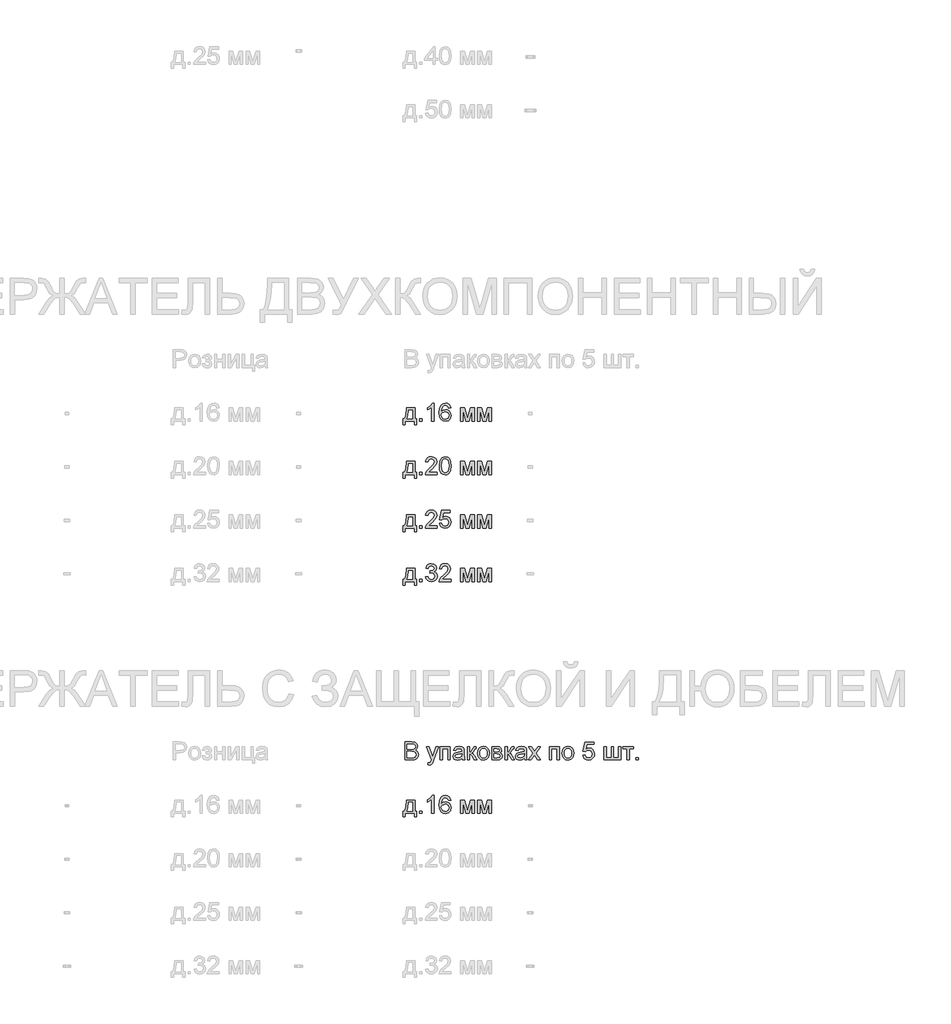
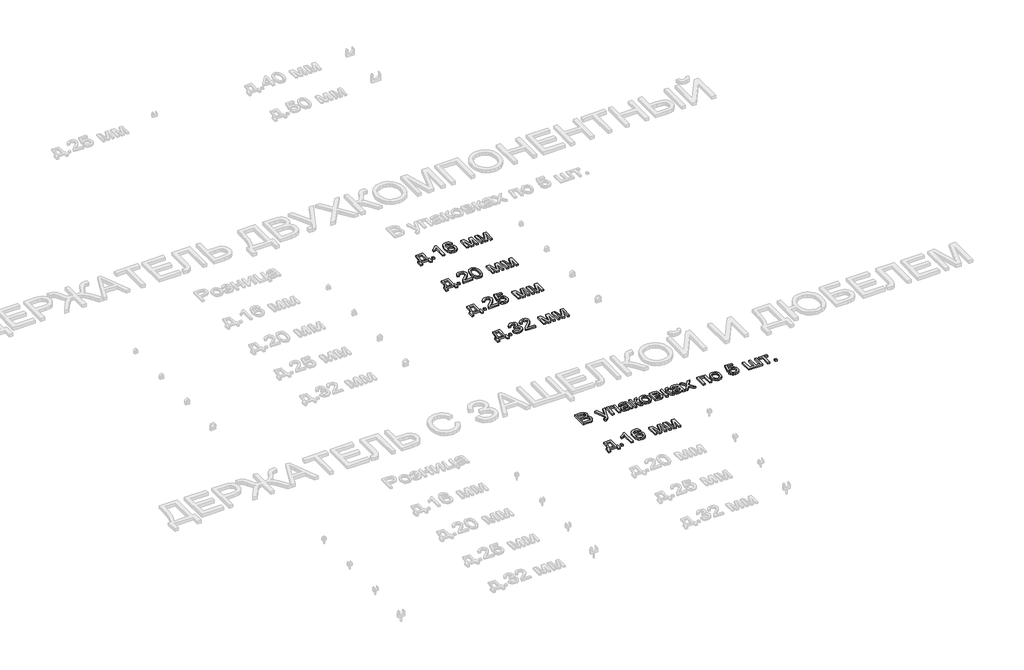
# One storey, part 43 of 98: 6 proxies.
"""IFC4 building model written with IfcOpenShell, lengths in millimetres."""

from ifc_helpers import new_model, si_unit, origin, origin_with_axes, place, context, project, spatial, polyline, outline, extrude, element, save

model = new_model("IFC4")

# Units and contexts
model_context = context("Model", 3, world=origin())
ifc_project = project(units=[si_unit("LENGTHUNIT", "METRE", prefix="MILLI")], contexts=[model_context])

# Site, building, storey
site = spatial("IfcSite", under=ifc_project)
building = spatial("IfcBuilding", under=site)
storey = spatial("IfcBuildingStorey", under=building, Name="Этаж 01", Elevation=0.0)

# Proxies
placement = place(None, origin())
element("IfcBuildingElementProxy", 1, Name="100", ObjectType="100", at=placement, inside=storey, context=model_context, shape_type="SweptSolid", body=[
    extrude(outline(polyline([(8374.7606918, -36585.7395637), (8421.8495872, -36585.7395637), (8421.8495872, -36646.9551277), (8431.2673663, -36646.9551277), (8431.2673663, -36679.9173545), (8418.7103275, -36679.9173545), (8418.7103275, -36659.5121665), (8366.9125426, -36659.5121665), (8366.9125426, -36679.9173545), (8354.3555038, -36679.9173545), (8354.3555038, -36646.9551277), (8362.2036531, -36646.9551277), (8371.903475, -36623.0060098), (8374.7606918, -36585.7395637)]), holes=[polyline([(8385.7481007, -36598.2966025), (8382.8050448, -36626.905559), (8376.3303217, -36646.9551277), (8409.2925484, -36646.9551277), (8409.2925484, -36598.2966025), (8385.7481007, -36598.2966025)])]), origin_with_axes(), (0.0, 0.0, 1.0), 10.0),
    extrude(outline(polyline([(8448.5332946, -36659.5121665), (8448.5332946, -36646.9551277), (8461.0903334, -36646.9551277), (8461.0903334, -36659.5121665), (8448.5332946, -36659.5121665)])), origin_with_axes(), (0.0, 0.0, 1.0), 10.0),
    extrude(outline(polyline([(8528.5844167, -36659.5121665), (8516.027378, -36659.5121665), (8516.027378, -36581.2268779), (8504.1325268, -36589.7004265), (8490.9133004, -36596.0402596), (8490.9133004, -36584.1699338), (8509.3196629, -36572.4222355), (8520.4910128, -36559.0558563), (8528.5844167, -36559.0558563), (8528.5844167, -36659.5121665)])), origin_with_axes(), (0.0, 0.0, 1.0), 10.0),
    extrude(outline(polyline([(8622.7622075, -36585.7395637), (8610.2051687, -36587.3091935), (8605.4472283, -36576.8368194), (8592.865664, -36571.6128951), (8581.5348986, -36574.6540529), (8572.9632481, -36586.0706575), (8569.3947927, -36608.4501455), (8580.4680408, -36598.4314925), (8594.1900392, -36595.1573428), (8605.7905848, -36597.3952916), (8615.5271949, -36604.109138), (8622.1306767, -36614.3669143), (8624.3318374, -36627.2366527), (8620.1870335, -36644.5638947), (8608.7826917, -36656.8266279), (8592.3261038, -36661.0817963), (8578.0798735, -36658.2613677), (8566.7337796, -36649.8000818), (8559.3117604, -36634.8640728), (8556.837754, -36612.6194748), (8559.5846062, -36587.6096305), (8567.8251629, -36570.5092491), (8579.0762206, -36561.9192045), (8593.650479, -36559.0558563), (8604.6685447, -36560.8278213), (8613.4915812, -36566.1437161), (8619.6719987, -36574.5866079), (8622.7622075, -36585.7395637)]), holes=[polyline([(8569.3947927, -36627.040449), (8572.3010605, -36637.9174933), (8580.0265824, -36645.8146935), (8591.3450851, -36648.5247575), (8599.6316271, -36647.1206746), (8606.1462041, -36642.9084257), (8610.36765, -36636.2865498), (8611.7747986, -36627.6535857), (8610.3860441, -36619.3670437), (8606.2197805, -36613.0486705), (8599.5948389, -36609.0479538), (8590.8300503, -36607.7143815), (8575.6365239, -36613.0486705), (8570.9552255, -36619.2137596), (8569.3947927, -36627.040449)])]), origin_with_axes(), (0.0, 0.0, 1.0), 10.0),
    extrude(outline(polyline([(8677.6992521, -36585.7395637), (8699.306188, -36585.7395637), (8715.9589796, -36644.7968867), (8733.911621, -36585.7395637), (8754.6111146, -36585.7395637), (8754.6111146, -36659.5121665), (8742.0540758, -36659.5121665), (8742.0540758, -36600.111487), (8724.0033326, -36659.5121665), (8707.5222192, -36659.5121665), (8690.2562909, -36597.2665329), (8690.2562909, -36659.5121665), (8677.6992521, -36659.5121665), (8677.6992521, -36585.7395637)])), origin_with_axes(), (0.0, 0.0, 1.0), 10.0),
    extrude(outline(polyline([(8773.4466727, -36585.7395637), (8795.0536086, -36585.7395637), (8811.7064002, -36644.7968867), (8829.6590416, -36585.7395637), (8850.3585352, -36585.7395637), (8850.3585352, -36659.5121665), (8837.8014964, -36659.5121665), (8837.8014964, -36600.111487), (8819.7507532, -36659.5121665), (8803.2696398, -36659.5121665), (8786.0037115, -36597.2665329), (8786.0037115, -36659.5121665), (8773.4466727, -36659.5121665), (8773.4466727, -36585.7395637)])), origin_with_axes(), (0.0, 0.0, 1.0), 10.0),
])
element("IfcBuildingElementProxy", 2, Name="100", ObjectType="100", at=placement, inside=storey, context=model_context, shape_type="SweptSolid", body=[
    extrude(outline(polyline([(8374.7606918, -36885.7395637), (8421.8495872, -36885.7395637), (8421.8495872, -36946.9551277), (8431.2673663, -36946.9551277), (8431.2673663, -36979.9173545), (8418.7103275, -36979.9173545), (8418.7103275, -36959.5121665), (8366.9125426, -36959.5121665), (8366.9125426, -36979.9173545), (8354.3555038, -36979.9173545), (8354.3555038, -36946.9551277), (8362.2036531, -36946.9551277), (8371.903475, -36923.0060098), (8374.7606918, -36885.7395637)]), holes=[polyline([(8385.7481007, -36898.2966025), (8382.8050448, -36926.905559), (8376.3303217, -36946.9551277), (8409.2925484, -36946.9551277), (8409.2925484, -36898.2966025), (8385.7481007, -36898.2966025)])]), origin_with_axes(), (0.0, 0.0, 1.0), 10.0),
    extrude(outline(polyline([(8448.5332946, -36959.5121665), (8448.5332946, -36946.9551277), (8461.0903334, -36946.9551277), (8461.0903334, -36959.5121665), (8448.5332946, -36959.5121665)])), origin_with_axes(), (0.0, 0.0, 1.0), 10.0),
    extrude(outline(polyline([(8545.850345, -36946.9551277), (8545.850345, -36959.5121665), (8479.9258915, -36959.5121665), (8481.2747922, -36950.8546768), (8488.9022122, -36937.5250859), (8504.6230361, -36922.9692216), (8526.3035484, -36902.0489988), (8531.7236764, -36887.8242283), (8526.6101167, -36876.3095219), (8513.2560003, -36871.6128951), (8499.3377981, -36876.1991573), (8494.0525601, -36888.8788234), (8481.4955214, -36887.3091935), (8484.5397449, -36875.1629563), (8491.1217669, -36866.2908689), (8500.8982309, -36860.8646095), (8513.5257804, -36859.0558563), (8526.2453004, -36861.0669445), (8536.0033703, -36867.1002093), (8542.211379, -36876.1133182), (8544.2807152, -36887.0639389), (8542.0488978, -36898.9710528), (8534.6299442, -36911.2828369), (8516.6405146, -36928.4874515), (8502.195015, -36940.5662437), (8496.5296322, -36946.9551277), (8545.850345, -36946.9551277)])), origin_with_axes(), (0.0, 0.0, 1.0), 10.0),
    extrude(outline(polyline([(8558.4073838, -36910.0933518), (8562.0984665, -36881.1900897), (8573.06135, -36864.5250353), (8591.3696106, -36859.0558563), (8606.0358395, -36862.2932179), (8616.1648571, -36871.6251578), (8622.050969, -36886.4875904), (8624.3318374, -36910.0933518), (8620.6775429, -36938.8739865), (8609.7514476, -36955.5758291), (8601.520088, -36959.7053045), (8591.3696106, -36961.0817963), (8578.3220625, -36958.6905633), (8568.4137741, -36951.5168644), (8560.9089814, -36934.5268476), (8558.4073838, -36910.0933518)]), holes=[polyline([(8570.9644226, -36910.0688263), (8572.4359506, -36929.8210238), (8576.8505345, -36941.2529568), (8583.4233595, -36946.7068073), (8591.3696106, -36948.5247575), (8599.3158617, -36946.700676), (8605.8886867, -36941.2284313), (8610.3032706, -36929.7903669), (8611.7747986, -36910.0688263), (8610.3523215, -36890.7611529), (8606.0848904, -36879.2403151), (8599.5243281, -36873.5197501), (8591.2224578, -36871.6128951), (8583.3620458, -36873.2928895), (8577.0467382, -36878.3328729), (8572.4850015, -36890.5710806), (8570.9644226, -36910.0688263)])]), origin_with_axes(), (0.0, 0.0, 1.0), 10.0),
    extrude(outline(polyline([(8677.6992521, -36885.7395637), (8699.306188, -36885.7395637), (8715.9589796, -36944.7968867), (8733.911621, -36885.7395637), (8754.6111146, -36885.7395637), (8754.6111146, -36959.5121665), (8742.0540758, -36959.5121665), (8742.0540758, -36900.111487), (8724.0033326, -36959.5121665), (8707.5222192, -36959.5121665), (8690.2562909, -36897.2665329), (8690.2562909, -36959.5121665), (8677.6992521, -36959.5121665), (8677.6992521, -36885.7395637)])), origin_with_axes(), (0.0, 0.0, 1.0), 10.0),
    extrude(outline(polyline([(8773.4466727, -36885.7395637), (8795.0536086, -36885.7395637), (8811.7064002, -36944.7968867), (8829.6590416, -36885.7395637), (8850.3585352, -36885.7395637), (8850.3585352, -36959.5121665), (8837.8014964, -36959.5121665), (8837.8014964, -36900.111487), (8819.7507532, -36959.5121665), (8803.2696398, -36959.5121665), (8786.0037115, -36897.2665329), (8786.0037115, -36959.5121665), (8773.4466727, -36959.5121665), (8773.4466727, -36885.7395637)])), origin_with_axes(), (0.0, 0.0, 1.0), 10.0),
])
element("IfcBuildingElementProxy", 3, Name="100", ObjectType="100", at=placement, inside=storey, context=model_context, shape_type="SweptSolid", body=[
    extrude(outline(polyline([(8374.7606918, -37185.7395637), (8421.8495872, -37185.7395637), (8421.8495872, -37246.9551277), (8431.2673663, -37246.9551277), (8431.2673663, -37279.9173545), (8418.7103275, -37279.9173545), (8418.7103275, -37259.5121665), (8366.9125426, -37259.5121665), (8366.9125426, -37279.9173545), (8354.3555038, -37279.9173545), (8354.3555038, -37246.9551277), (8362.2036531, -37246.9551277), (8371.903475, -37223.0060098), (8374.7606918, -37185.7395637)]), holes=[polyline([(8385.7481007, -37198.2966025), (8382.8050448, -37226.905559), (8376.3303217, -37246.9551277), (8409.2925484, -37246.9551277), (8409.2925484, -37198.2966025), (8385.7481007, -37198.2966025)])]), origin_with_axes(), (0.0, 0.0, 1.0), 10.0),
    extrude(outline(polyline([(8448.5332946, -37259.5121665), (8448.5332946, -37246.9551277), (8461.0903334, -37246.9551277), (8461.0903334, -37259.5121665), (8448.5332946, -37259.5121665)])), origin_with_axes(), (0.0, 0.0, 1.0), 10.0),
    extrude(outline(polyline([(8545.850345, -37246.9551277), (8545.850345, -37259.5121665), (8479.9258915, -37259.5121665), (8481.2747922, -37250.8546768), (8488.9022122, -37237.5250859), (8504.6230361, -37222.9692216), (8526.3035484, -37202.0489988), (8531.7236764, -37187.8242283), (8526.6101167, -37176.3095219), (8513.2560003, -37171.6128951), (8499.3377981, -37176.1991573), (8494.0525601, -37188.8788234), (8481.4955214, -37187.3091935), (8484.5397449, -37175.1629563), (8491.1217669, -37166.2908689), (8500.8982309, -37160.8646095), (8513.5257804, -37159.0558563), (8526.2453004, -37161.0669445), (8536.0033703, -37167.1002093), (8542.211379, -37176.1133182), (8544.2807152, -37187.0639389), (8542.0488978, -37198.9710528), (8534.6299442, -37211.2828369), (8516.6405146, -37228.4874515), (8502.195015, -37240.5662437), (8496.5296322, -37246.9551277), (8545.850345, -37246.9551277)])), origin_with_axes(), (0.0, 0.0, 1.0), 10.0),
    extrude(outline(polyline([(8558.4073838, -37232.8284591), (8570.9644226, -37231.2588292), (8577.2919929, -37244.1960127), (8590.4131174, -37248.5247575), (8599.4139635, -37247.019507), (8606.1584668, -37242.5037555), (8610.3707156, -37235.4986692), (8611.7747986, -37226.5254142), (8606.5140861, -37211.6139307), (8599.9075386, -37207.5120464), (8590.6093211, -37206.1447517), (8579.585124, -37208.3275182), (8572.5340524, -37213.9929009), (8559.9770137, -37212.4232711), (8570.9644226, -37160.6254862), (8619.6229478, -37160.6254862), (8619.6229478, -37173.1825249), (8581.1179657, -37173.1825249), (8575.7468885, -37200.847251), (8584.7170778, -37195.4025974), (8594.1164628, -37193.5877129), (8605.8488328, -37195.8379245), (8615.5885086, -37202.5885591), (8622.1460052, -37212.8769922), (8624.3318374, -37225.7405993), (8622.3636687, -37238.2976381), (8616.4591627, -37249.0397923), (8605.1529227, -37258.0712953), (8590.3640665, -37261.0817963), (8578.0308226, -37259.1473501), (8568.2053076, -37253.3440117), (8561.4700014, -37244.3462312), (8558.4073838, -37232.8284591)])), origin_with_axes(), (0.0, 0.0, 1.0), 10.0),
    extrude(outline(polyline([(8677.6992521, -37185.7395637), (8699.306188, -37185.7395637), (8715.9589796, -37244.7968867), (8733.911621, -37185.7395637), (8754.6111146, -37185.7395637), (8754.6111146, -37259.5121665), (8742.0540758, -37259.5121665), (8742.0540758, -37200.111487), (8724.0033326, -37259.5121665), (8707.5222192, -37259.5121665), (8690.2562909, -37197.2665329), (8690.2562909, -37259.5121665), (8677.6992521, -37259.5121665), (8677.6992521, -37185.7395637)])), origin_with_axes(), (0.0, 0.0, 1.0), 10.0),
    extrude(outline(polyline([(8773.4466727, -37185.7395637), (8795.0536086, -37185.7395637), (8811.7064002, -37244.7968867), (8829.6590416, -37185.7395637), (8850.3585352, -37185.7395637), (8850.3585352, -37259.5121665), (8837.8014964, -37259.5121665), (8837.8014964, -37200.111487), (8819.7507532, -37259.5121665), (8803.2696398, -37259.5121665), (8786.0037115, -37197.2665329), (8786.0037115, -37259.5121665), (8773.4466727, -37259.5121665), (8773.4466727, -37185.7395637)])), origin_with_axes(), (0.0, 0.0, 1.0), 10.0),
])
element("IfcBuildingElementProxy", 4, Name="100", ObjectType="100", at=placement, inside=storey, context=model_context, shape_type="SweptSolid", body=[
    extrude(outline(polyline([(8374.7606918, -37485.7395637), (8421.8495872, -37485.7395637), (8421.8495872, -37546.9551277), (8431.2673663, -37546.9551277), (8431.2673663, -37579.9173545), (8418.7103275, -37579.9173545), (8418.7103275, -37559.5121665), (8366.9125426, -37559.5121665), (8366.9125426, -37579.9173545), (8354.3555038, -37579.9173545), (8354.3555038, -37546.9551277), (8362.2036531, -37546.9551277), (8371.903475, -37523.0060098), (8374.7606918, -37485.7395637)]), holes=[polyline([(8385.7481007, -37498.2966025), (8382.8050448, -37526.905559), (8376.3303217, -37546.9551277), (8409.2925484, -37546.9551277), (8409.2925484, -37498.2966025), (8385.7481007, -37498.2966025)])]), origin_with_axes(), (0.0, 0.0, 1.0), 10.0),
    extrude(outline(polyline([(8448.5332946, -37559.5121665), (8448.5332946, -37546.9551277), (8461.0903334, -37546.9551277), (8461.0903334, -37559.5121665), (8448.5332946, -37559.5121665)])), origin_with_axes(), (0.0, 0.0, 1.0), 10.0),
    extrude(outline(polyline([(8481.4955214, -37532.8284591), (8494.0525601, -37531.2588292), (8500.9810044, -37544.4780556), (8513.9427133, -37548.5247575), (8522.551152, -37547.1329373), (8529.1975534, -37542.9574767), (8534.8629361, -37529.1741646), (8529.2466043, -37516.1879302), (8514.9727829, -37511.049845), (8506.1681405, -37512.4232711), (8507.5660921, -37499.8662323), (8509.5771803, -37500.0133851), (8523.8264763, -37496.4081416), (8528.572154, -37491.8341421), (8530.1540466, -37485.3226308), (8525.5677844, -37475.5001815), (8513.7465096, -37471.6128951), (8501.778082, -37475.5369697), (8495.62219, -37487.3091935), (8483.0651512, -37485.7395637), (8486.7623653, -37474.4639805), (8493.3413216, -37466.0456142), (8502.3421678, -37460.8032958), (8513.3050512, -37459.0558563), (8528.4495267, -37462.5016843), (8539.0445281, -37471.9194634), (8542.7110854, -37484.5868668), (8539.2284691, -37496.1628869), (8528.9277733, -37504.47702), (8542.6129835, -37513.0609332), (8547.4199749, -37529.3948938), (8545.0164792, -37541.6331015), (8537.8059921, -37551.860221), (8526.9228164, -37558.7764025), (8513.5012549, -37561.0817963), (8501.3611491, -37559.1136276), (8491.4773862, -37553.2091216), (8484.6041242, -37544.1776186), (8481.4955214, -37532.8284591)])), origin_with_axes(), (0.0, 0.0, 1.0), 10.0),
    extrude(outline(polyline([(8622.7622075, -37546.9551277), (8622.7622075, -37559.5121665), (8556.837754, -37559.5121665), (8558.1866546, -37550.8546768), (8565.8140747, -37537.5250859), (8581.5348986, -37522.9692216), (8603.2154108, -37502.0489988), (8608.6355389, -37487.8242283), (8603.5219792, -37476.3095219), (8590.1678627, -37471.6128951), (8576.2496606, -37476.1991573), (8570.9644226, -37488.8788234), (8558.4073838, -37487.3091935), (8561.4516073, -37475.1629563), (8568.0336294, -37466.2908689), (8577.8100934, -37460.8646095), (8590.4376429, -37459.0558563), (8603.1571628, -37461.0669445), (8612.9152328, -37467.1002093), (8619.1232414, -37476.1133182), (8621.1925777, -37487.0639389), (8618.9607602, -37498.9710528), (8611.5418067, -37511.2828369), (8593.5523771, -37528.4874515), (8579.1068774, -37540.5662437), (8573.4414947, -37546.9551277), (8622.7622075, -37546.9551277)])), origin_with_axes(), (0.0, 0.0, 1.0), 10.0),
    extrude(outline(polyline([(8677.6992521, -37485.7395637), (8699.306188, -37485.7395637), (8715.9589796, -37544.7968867), (8733.911621, -37485.7395637), (8754.6111146, -37485.7395637), (8754.6111146, -37559.5121665), (8742.0540758, -37559.5121665), (8742.0540758, -37500.111487), (8724.0033326, -37559.5121665), (8707.5222192, -37559.5121665), (8690.2562909, -37497.2665329), (8690.2562909, -37559.5121665), (8677.6992521, -37559.5121665), (8677.6992521, -37485.7395637)])), origin_with_axes(), (0.0, 0.0, 1.0), 10.0),
    extrude(outline(polyline([(8773.4466727, -37485.7395637), (8795.0536086, -37485.7395637), (8811.7064002, -37544.7968867), (8829.6590416, -37485.7395637), (8850.3585352, -37485.7395637), (8850.3585352, -37559.5121665), (8837.8014964, -37559.5121665), (8837.8014964, -37500.111487), (8819.7507532, -37559.5121665), (8803.2696398, -37559.5121665), (8786.0037115, -37497.2665329), (8786.0037115, -37559.5121665), (8773.4466727, -37559.5121665), (8773.4466727, -37485.7395637)])), origin_with_axes(), (0.0, 0.0, 1.0), 10.0),
])
element("IfcBuildingElementProxy", 5, Name="100", ObjectType="100", at=placement, inside=storey, context=model_context, shape_type="SweptSolid", body=[
    extrude(outline(polyline([(8374.7606918, -38785.7395637), (8421.8495872, -38785.7395637), (8421.8495872, -38846.9551277), (8431.2673663, -38846.9551277), (8431.2673663, -38879.9173545), (8418.7103275, -38879.9173545), (8418.7103275, -38859.5121665), (8366.9125426, -38859.5121665), (8366.9125426, -38879.9173545), (8354.3555038, -38879.9173545), (8354.3555038, -38846.9551277), (8362.2036531, -38846.9551277), (8371.903475, -38823.0060098), (8374.7606918, -38785.7395637)]), holes=[polyline([(8385.7481007, -38798.2966025), (8382.8050448, -38826.905559), (8376.3303217, -38846.9551277), (8409.2925484, -38846.9551277), (8409.2925484, -38798.2966025), (8385.7481007, -38798.2966025)])]), origin_with_axes(), (0.0, 0.0, 1.0), 10.0),
    extrude(outline(polyline([(8448.5332946, -38859.5121665), (8448.5332946, -38846.9551277), (8461.0903334, -38846.9551277), (8461.0903334, -38859.5121665), (8448.5332946, -38859.5121665)])), origin_with_axes(), (0.0, 0.0, 1.0), 10.0),
    extrude(outline(polyline([(8528.5844167, -38859.5121665), (8516.027378, -38859.5121665), (8516.027378, -38781.2268779), (8504.1325268, -38789.7004265), (8490.9133004, -38796.0402596), (8490.9133004, -38784.1699338), (8509.3196629, -38772.4222355), (8520.4910128, -38759.0558563), (8528.5844167, -38759.0558563), (8528.5844167, -38859.5121665)])), origin_with_axes(), (0.0, 0.0, 1.0), 10.0),
    extrude(outline(polyline([(8622.7622075, -38785.7395637), (8610.2051687, -38787.3091935), (8605.4472283, -38776.8368194), (8592.865664, -38771.6128951), (8581.5348986, -38774.6540529), (8572.9632481, -38786.0706575), (8569.3947927, -38808.4501455), (8580.4680408, -38798.4314925), (8594.1900392, -38795.1573428), (8605.7905848, -38797.3952916), (8615.5271949, -38804.109138), (8622.1306767, -38814.3669143), (8624.3318374, -38827.2366527), (8620.1870335, -38844.5638947), (8608.7826917, -38856.8266279), (8592.3261038, -38861.0817963), (8578.0798735, -38858.2613677), (8566.7337796, -38849.8000818), (8559.3117604, -38834.8640728), (8556.837754, -38812.6194748), (8559.5846062, -38787.6096305), (8567.8251629, -38770.5092491), (8579.0762206, -38761.9192045), (8593.650479, -38759.0558563), (8604.6685447, -38760.8278213), (8613.4915812, -38766.1437161), (8619.6719987, -38774.5866079), (8622.7622075, -38785.7395637)]), holes=[polyline([(8569.3947927, -38827.040449), (8572.3010605, -38837.9174933), (8580.0265824, -38845.8146935), (8591.3450851, -38848.5247575), (8599.6316271, -38847.1206746), (8606.1462041, -38842.9084257), (8610.36765, -38836.2865498), (8611.7747986, -38827.6535857), (8610.3860441, -38819.3670437), (8606.2197805, -38813.0486705), (8599.5948389, -38809.0479538), (8590.8300503, -38807.7143815), (8575.6365239, -38813.0486705), (8570.9552255, -38819.2137596), (8569.3947927, -38827.040449)])]), origin_with_axes(), (0.0, 0.0, 1.0), 10.0),
    extrude(outline(polyline([(8677.6992521, -38785.7395637), (8699.306188, -38785.7395637), (8715.9589796, -38844.7968867), (8733.911621, -38785.7395637), (8754.6111146, -38785.7395637), (8754.6111146, -38859.5121665), (8742.0540758, -38859.5121665), (8742.0540758, -38800.111487), (8724.0033326, -38859.5121665), (8707.5222192, -38859.5121665), (8690.2562909, -38797.2665329), (8690.2562909, -38859.5121665), (8677.6992521, -38859.5121665), (8677.6992521, -38785.7395637)])), origin_with_axes(), (0.0, 0.0, 1.0), 10.0),
    extrude(outline(polyline([(8773.4466727, -38785.7395637), (8795.0536086, -38785.7395637), (8811.7064002, -38844.7968867), (8829.6590416, -38785.7395637), (8850.3585352, -38785.7395637), (8850.3585352, -38859.5121665), (8837.8014964, -38859.5121665), (8837.8014964, -38800.111487), (8819.7507532, -38859.5121665), (8803.2696398, -38859.5121665), (8786.0037115, -38797.2665329), (8786.0037115, -38859.5121665), (8773.4466727, -38859.5121665), (8773.4466727, -38785.7395637)])), origin_with_axes(), (0.0, 0.0, 1.0), 10.0),
])
element("IfcBuildingElementProxy", 6, Name="100", ObjectType="100", at=placement, inside=storey, context=model_context, shape_type="SweptSolid", body=[
    extrude(outline(polyline([(8365.3429127, -38559.5121665), (8365.3429127, -38459.0558563), (8403.6762166, -38459.0558563), (8422.4504611, -38462.011175), (8433.5359719, -38471.0978603), (8437.5458857, -38483.9492046), (8434.173634, -38495.6846403), (8423.9833028, -38504.5751218), (8436.3564006, -38513.94385), (8440.6851454, -38529.5665721), (8437.7298267, -38543.0678413), (8430.408975, -38552.6818241), (8419.4828797, -38557.7831211), (8403.3819111, -38559.5121665), (8365.3429127, -38559.5121665)]), holes=[polyline([(8377.8999515, -38499.8662323), (8400.8312626, -38499.8662323), (8414.2221672, -38498.7871118), (8422.2787829, -38494.1395359), (8424.9888469, -38485.9602929), (8422.4627239, -38477.7687871), (8415.2277113, -38472.9250075), (8399.0899544, -38471.6128951), (8377.8999515, -38471.6128951), (8377.8999515, -38499.8662323)]), polyline([(8377.8999515, -38546.9551277), (8403.6516912, -38546.9551277), (8412.9713684, -38546.4646184), (8420.8563058, -38543.7300289), (8426.0802302, -38538.1504853), (8428.1281066, -38529.6891994), (8425.7246109, -38519.9280638), (8417.9377753, -38514.1032655), (8402.4254179, -38512.4232711), (8377.8999515, -38512.4232711), (8377.8999515, -38546.9551277)])]), origin_with_axes(), (0.0, 0.0, 1.0), 10.0),
    extrude(outline(polyline([(8495.62219, -38587.7655037), (8494.0525601, -38575.6744488), (8500.4291814, -38576.7780948), (8506.3888697, -38575.3924059), (8510.0431642, -38571.529645), (8513.4767295, -38562.2835442), (8514.4577481, -38559.2423863), (8487.7740407, -38485.7395637), (8501.0177926, -38485.7395637), (8515.1689867, -38526.6970925), (8520.0986054, -38543.080104), (8525.0282241, -38528.6100789), (8539.5718257, -38485.7395637), (8552.7174756, -38485.7395637), (8527.0393124, -38561.278), (8520.3683855, -38577.6610116), (8513.084322, -38586.5147049), (8503.2986609, -38589.3351335), (8495.62219, -38587.7655037)])), origin_with_axes(), (0.0, 0.0, 1.0), 10.0),
    extrude(outline(polyline([(8563.1162734, -38485.7395637), (8619.6229478, -38485.7395637), (8619.6229478, -38559.5121665), (8607.065909, -38559.5121665), (8607.065909, -38498.2966025), (8575.6733121, -38498.2966025), (8575.6733121, -38559.5121665), (8563.1162734, -38559.5121665), (8563.1162734, -38485.7395637)])), origin_with_axes(), (0.0, 0.0, 1.0), 10.0),
    extrude(outline(polyline([(8685.5474014, -38550.0943874), (8673.3705073, -38558.6047242), (8659.918289, -38561.0817963), (8649.4244551, -38559.5918742), (8641.6836048, -38555.122108), (8636.9103359, -38548.3346852), (8635.3192463, -38539.8917934), (8637.722742, -38529.9589795), (8644.0380496, -38522.7484924), (8652.8304292, -38518.6282141), (8663.6952108, -38516.7397532), (8685.473825, -38512.4232711), (8685.5474014, -38509.6273679), (8682.0893106, -38500.3567416), (8668.2078966, -38496.7269726), (8655.5037051, -38499.1427311), (8649.4459149, -38507.7143815), (8636.8888761, -38506.1447517), (8642.3212669, -38493.8820185), (8653.2596249, -38486.6960569), (8669.8265774, -38484.1699338), (8685.0446293, -38486.4017513), (8693.6408052, -38492.0058203), (8697.4913035, -38500.5284199), (8698.1044401, -38511.5158288), (8698.1044401, -38527.1385509), (8698.7421022, -38548.9539532), (8701.2436998, -38559.5121665), (8688.686661, -38559.5121665), (8685.5474014, -38550.0943874)]), holes=[polyline([(8685.5474014, -38524.9803098), (8665.2893661, -38528.8308081), (8654.4858982, -38530.8664218), (8649.5930677, -38534.1773597), (8647.876285, -38539.0088766), (8651.6164187, -38545.8024308), (8662.5915649, -38548.5247575), (8675.2957564, -38545.5203879), (8683.4872622, -38538.2485871), (8685.473825, -38528.5365025), (8685.5474014, -38524.9803098)])]), origin_with_axes(), (0.0, 0.0, 1.0), 10.0),
    extrude(outline(polyline([(8715.3703684, -38485.7395637), (8727.9274072, -38485.7395637), (8727.9274072, -38517.1321606), (8736.3396422, -38514.8758177), (8743.2312982, -38501.7301677), (8748.9579946, -38490.3871396), (8754.0102407, -38486.6960569), (8763.1950278, -38485.7395637), (8765.5985235, -38485.7395637), (8765.5985235, -38498.3701789), (8762.2140091, -38498.2966025), (8756.0826426, -38499.6209776), (8751.7661605, -38507.8860598), (8746.7016517, -38516.8255923), (8739.6015292, -38521.203388), (8747.5232548, -38526.0900872), (8755.2978276, -38536.3846517), (8768.7377832, -38559.5121665), (8754.4639618, -38559.5121665), (8741.2937864, -38536.875161), (8734.6719104, -38527.2979664), (8727.9274072, -38524.9803098), (8727.9274072, -38559.5121665), (8715.3703684, -38559.5121665), (8715.3703684, -38485.7395637)])), origin_with_axes(), (0.0, 0.0, 1.0), 10.0),
    extrude(outline(polyline([(8773.4466727, -38522.6258651), (8776.1628681, -38504.8387706), (8784.3114543, -38492.3369141), (8794.3791583, -38486.2116789), (8806.433425, -38484.1699338), (8819.6250602, -38486.656203), (8830.1618137, -38494.1150104), (8837.0687981, -38505.957745), (8839.3711263, -38521.5957955), (8835.2998989, -38543.9384953), (8823.4418359, -38556.5813732), (8806.433425, -38561.0817963), (8793.0823742, -38558.6047242), (8782.5578835, -38551.1735079), (8775.7244754, -38539.082453), (8773.4466727, -38522.6258651)]), holes=[polyline([(8786.0037115, -38522.6013396), (8787.4568454, -38533.9658276), (8791.816247, -38542.0622972), (8798.3768093, -38546.9091424), (8806.433425, -38548.5247575), (8814.4532525, -38546.8999454), (8821.001552, -38542.025509), (8825.3609536, -38533.8217405), (8826.8140875, -38522.2089321), (8825.3517566, -38511.175538), (8820.9647638, -38503.189433), (8814.4072672, -38498.3425877), (8806.433425, -38496.7269726), (8798.3768093, -38498.3364563), (8791.816247, -38503.1649075), (8787.4568454, -38511.242983), (8786.0037115, -38522.6013396)])]), origin_with_axes(), (0.0, 0.0, 1.0), 10.0),
    extrude(outline(polyline([(8853.4977949, -38485.7395637), (8881.1625209, -38485.7395637), (8896.3315219, -38487.4195581), (8904.8663841, -38493.5754502), (8908.4348395, -38504.3053417), (8906.2765985, -38513.024145), (8899.7773499, -38519.2413507), (8908.2141103, -38526.0471676), (8911.5740992, -38537.8807051), (8909.446515, -38547.4517684), (8904.3881375, -38554.1901403), (8896.3805728, -38558.1816599), (8885.4054266, -38559.5121665), (8853.4977949, -38559.5121665), (8853.4977949, -38485.7395637)]), holes=[polyline([(8866.0548337, -38513.9929009), (8878.4647196, -38513.9929009), (8888.7041018, -38513.3552388), (8893.6827715, -38510.8045903), (8895.8778007, -38506.1938026), (8892.0273025, -38500.0379106), (8878.8571271, -38498.2966025), (8866.0548337, -38498.2966025), (8866.0548337, -38513.9929009)]), polyline([(8866.0548337, -38546.9551277), (8881.4568265, -38546.9551277), (8895.1175113, -38544.6865221), (8899.0170604, -38536.8506356), (8896.8710821, -38530.8051081), (8891.2792758, -38527.2857037), (8880.2305532, -38526.5499397), (8866.0548337, -38526.5499397), (8866.0548337, -38546.9551277)])]), origin_with_axes(), (0.0, 0.0, 1.0), 10.0),
    extrude(outline(polyline([(8927.2703976, -38485.7395637), (8939.8274364, -38485.7395637), (8939.8274364, -38517.1321606), (8948.2396714, -38514.8758177), (8955.1313274, -38501.7301677), (8960.8580238, -38490.3871396), (8965.9102699, -38486.6960569), (8975.095057, -38485.7395637), (8977.4985527, -38485.7395637), (8977.4985527, -38498.3701789), (8974.1140384, -38498.2966025), (8967.9826718, -38499.6209776), (8963.6661897, -38507.8860598), (8958.6016809, -38516.8255923), (8951.5015584, -38521.203388), (8959.423284, -38526.0900872), (8967.1978569, -38536.3846517), (8980.6378124, -38559.5121665), (8966.363991, -38559.5121665), (8953.1938156, -38536.875161), (8946.5719397, -38527.2979664), (8939.8274364, -38524.9803098), (8939.8274364, -38559.5121665), (8927.2703976, -38559.5121665), (8927.2703976, -38485.7395637)])), origin_with_axes(), (0.0, 0.0, 1.0), 10.0),
    extrude(outline(polyline([(9035.574857, -38550.0943874), (9023.397963, -38558.6047242), (9009.9457447, -38561.0817963), (8999.4519108, -38559.5918742), (8991.7110605, -38555.122108), (8986.9377916, -38548.3346852), (8985.346702, -38539.8917934), (8987.7501977, -38529.9589795), (8994.0655052, -38522.7484924), (9002.8578849, -38518.6282141), (9013.7226665, -38516.7397532), (9035.5012806, -38512.4232711), (9035.574857, -38509.6273679), (9032.1167663, -38500.3567416), (9018.2353523, -38496.7269726), (9005.5311608, -38499.1427311), (8999.4733706, -38507.7143815), (8986.9163318, -38506.1447517), (8992.3487226, -38493.8820185), (9003.2870806, -38486.6960569), (9019.8540331, -38484.1699338), (9035.072085, -38486.4017513), (9043.6682609, -38492.0058203), (9047.5187591, -38500.5284199), (9048.1318958, -38511.5158288), (9048.1318958, -38527.1385509), (9048.7695579, -38548.9539532), (9051.2711555, -38559.5121665), (9038.7141167, -38559.5121665), (9035.574857, -38550.0943874)]), holes=[polyline([(9035.574857, -38524.9803098), (9015.3168218, -38528.8308081), (9004.5133539, -38530.8664218), (8999.6205234, -38534.1773597), (8997.9037407, -38539.0088766), (9001.6438743, -38545.8024308), (9012.6190205, -38548.5247575), (9025.3232121, -38545.5203879), (9033.5147179, -38538.2485871), (9035.5012806, -38528.5365025), (9035.574857, -38524.9803098)])]), origin_with_axes(), (0.0, 0.0, 1.0), 10.0),
    extrude(outline(polyline([(9057.5496749, -38559.5121665), (9084.3805351, -38522.4296613), (9059.1193047, -38485.7395637), (9074.226992, -38485.7395637), (9086.4161488, -38503.3978995), (9092.106057, -38511.736558), (9097.0356757, -38504.9184784), (9110.9170896, -38485.7395637), (9126.0247769, -38485.7395637), (9099.4882223, -38522.4296613), (9125.0437583, -38559.5121665), (9109.936071, -38559.5121665), (9094.5586036, -38537.2185176), (9091.738175, -38533.1472901), (9072.6573621, -38559.5121665), (9057.5496749, -38559.5121665)])), origin_with_axes(), (0.0, 0.0, 1.0), 10.0),
    extrude(outline(polyline([(9175.2719133, -38485.7395637), (9231.7785878, -38485.7395637), (9231.7785878, -38559.5121665), (9219.221549, -38559.5121665), (9219.221549, -38498.2966025), (9187.8289521, -38498.2966025), (9187.8289521, -38559.5121665), (9175.2719133, -38559.5121665), (9175.2719133, -38485.7395637)])), origin_with_axes(), (0.0, 0.0, 1.0), 10.0),
    extrude(outline(polyline([(9247.4748862, -38522.6258651), (9250.1910816, -38504.8387706), (9258.3396678, -38492.3369141), (9268.4073718, -38486.2116789), (9280.4616385, -38484.1699338), (9293.6532737, -38486.656203), (9304.1900272, -38494.1150104), (9311.0970116, -38505.957745), (9313.3993398, -38521.5957955), (9309.3281124, -38543.9384953), (9297.4700494, -38556.5813732), (9280.4616385, -38561.0817963), (9267.1105877, -38558.6047242), (9256.586097, -38551.1735079), (9249.7526889, -38539.082453), (9247.4748862, -38522.6258651)]), holes=[polyline([(9260.031925, -38522.6013396), (9261.4850589, -38533.9658276), (9265.8444605, -38542.0622972), (9272.4050228, -38546.9091424), (9280.4616385, -38548.5247575), (9288.481466, -38546.8999454), (9295.0297655, -38542.025509), (9299.3891671, -38533.8217405), (9300.842301, -38522.2089321), (9299.3799701, -38511.175538), (9294.9929773, -38503.189433), (9288.4354807, -38498.3425877), (9280.4616385, -38496.7269726), (9272.4050228, -38498.3364563), (9265.8444605, -38503.1649075), (9261.4850589, -38511.242983), (9260.031925, -38522.6013396)])]), origin_with_axes(), (0.0, 0.0, 1.0), 10.0),
    extrude(outline(polyline([(9363.6274949, -38532.8284591), (9376.1845336, -38531.2588292), (9382.5121039, -38544.1960127), (9395.6332284, -38548.5247575), (9404.6340746, -38547.019507), (9411.3785778, -38542.5037555), (9415.5908267, -38535.4986692), (9416.9949096, -38526.5254142), (9411.7341971, -38511.6139307), (9405.1276496, -38507.5120464), (9395.8294322, -38506.1447517), (9384.805235, -38508.3275182), (9377.7541635, -38513.9929009), (9365.1971247, -38512.4232711), (9376.1845336, -38460.6254862), (9424.8430589, -38460.6254862), (9424.8430589, -38473.1825249), (9386.3380767, -38473.1825249), (9380.9669996, -38500.847251), (9389.9371889, -38495.4025974), (9399.3365739, -38493.5877129), (9411.0689438, -38495.8379245), (9420.8086196, -38502.5885591), (9427.3661162, -38512.8769922), (9429.5519484, -38525.7405993), (9427.5837797, -38538.2976381), (9421.6792737, -38549.0397923), (9410.3730337, -38558.0712953), (9395.5841775, -38561.0817963), (9383.2509336, -38559.1473501), (9373.4254187, -38553.3440117), (9366.6901125, -38544.3462312), (9363.6274949, -38532.8284591)])), origin_with_axes(), (0.0, 0.0, 1.0), 10.0),
    extrude(outline(polyline([(9482.9193632, -38485.7395637), (9495.4764019, -38485.7395637), (9495.4764019, -38546.9551277), (9523.7297392, -38546.9551277), (9523.7297392, -38485.7395637), (9536.2867779, -38485.7395637), (9536.2867779, -38546.9551277), (9564.5401152, -38546.9551277), (9564.5401152, -38485.7395637), (9577.0971539, -38485.7395637), (9577.0971539, -38559.5121665), (9482.9193632, -38559.5121665), (9482.9193632, -38485.7395637)])), origin_with_axes(), (0.0, 0.0, 1.0), 10.0),
    extrude(outline(polyline([(9588.0845629, -38485.7395637), (9647.730497, -38485.7395637), (9647.730497, -38498.2966025), (9624.1860493, -38498.2966025), (9624.1860493, -38559.5121665), (9611.6290105, -38559.5121665), (9611.6290105, -38498.2966025), (9588.0845629, -38498.2966025), (9588.0845629, -38485.7395637)])), origin_with_axes(), (0.0, 0.0, 1.0), 10.0),
    extrude(outline(polyline([(9661.8571656, -38559.5121665), (9661.8571656, -38546.9551277), (9674.4142044, -38546.9551277), (9674.4142044, -38559.5121665), (9661.8571656, -38559.5121665)])), origin_with_axes(), (0.0, 0.0, 1.0), 10.0),
])

save(model, "model.ifc")
